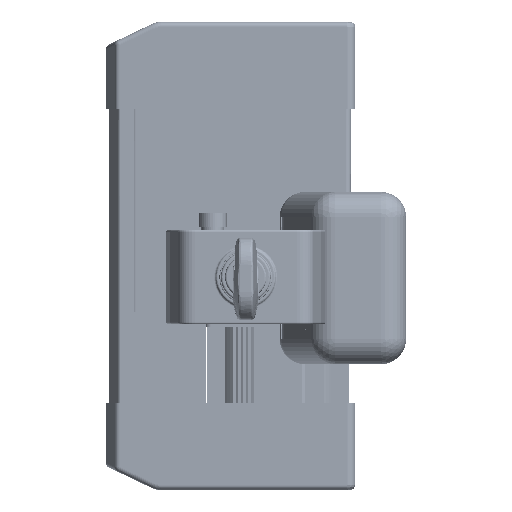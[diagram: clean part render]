
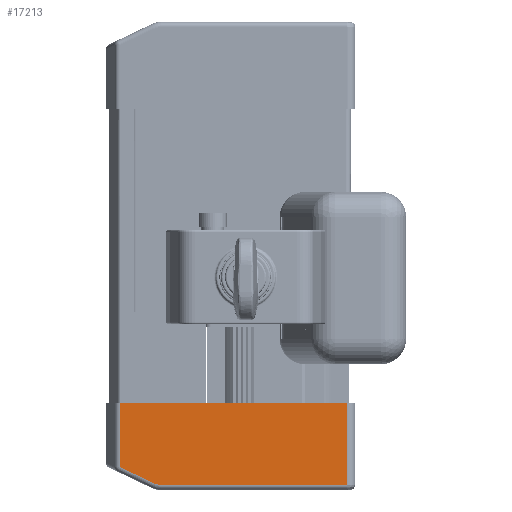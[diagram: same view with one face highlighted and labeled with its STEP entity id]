
A CAD part, front view. The second image highlights one B-rep face of the part: STEP entity #17213.
In plain terms, the highlighted planar face has unit normal (0, -1, 0).
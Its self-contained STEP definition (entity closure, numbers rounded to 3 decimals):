
#1254=LINE('',#85268,#5465);
#1799=LINE('',#86489,#6010);
#1800=LINE('',#86491,#6011);
#1801=LINE('',#86495,#6012);
#1802=LINE('',#86497,#6013);
#5465=VECTOR('',#68134,1.);
#6010=VECTOR('',#69201,1.);
#6011=VECTOR('',#69204,1.);
#6012=VECTOR('',#69207,1.);
#6013=VECTOR('',#69208,1.);
#12591=FACE_OUTER_BOUND('',#23577,.T.);
#15722=PLANE('',#61995);
#17213=ADVANCED_FACE('',(#12591),#15722,.T.);
#23577=EDGE_LOOP('',(#29163,#29164,#29165,#29166,#29167,#29168));
#29163=ORIENTED_EDGE('',*,*,#50423,.F.);
#29164=ORIENTED_EDGE('',*,*,#51034,.F.);
#29165=ORIENTED_EDGE('',*,*,#51035,.F.);
#29166=ORIENTED_EDGE('',*,*,#51036,.F.);
#29167=ORIENTED_EDGE('',*,*,#51037,.F.);
#29168=ORIENTED_EDGE('',*,*,#51038,.F.);
#44962=VERTEX_POINT('',#85267);
#44963=VERTEX_POINT('',#85269);
#45377=VERTEX_POINT('',#86488);
#45378=VERTEX_POINT('',#86492);
#45379=VERTEX_POINT('',#86494);
#45380=VERTEX_POINT('',#86496);
#50423=EDGE_CURVE('',#44962,#44963,#1254,.T.);
#51034=EDGE_CURVE('',#45377,#44962,#1799,.T.);
#51035=EDGE_CURVE('',#45378,#45377,#1800,.T.);
#51036=EDGE_CURVE('',#45379,#45378,#58970,.T.);
#51037=EDGE_CURVE('',#45380,#45379,#1801,.T.);
#51038=EDGE_CURVE('',#44963,#45380,#1802,.T.);
#58970=CIRCLE('',#61994,15.);
#61994=AXIS2_PLACEMENT_3D('',#86493,#69205,#69206);
#61995=AXIS2_PLACEMENT_3D('',#86498,#69209,#69210);
#68134=DIRECTION('',(1.,0.,0.));
#69201=DIRECTION('',(0.,0.,1.));
#69204=DIRECTION('',(-0.902,0.,0.432));
#69205=DIRECTION('',(0.,1.,0.));
#69206=DIRECTION('',(-1.,0.,0.));
#69207=DIRECTION('',(-1.,0.,0.));
#69208=DIRECTION('',(0.,0.,-1.));
#69209=DIRECTION('',(0.,-1.,0.));
#69210=DIRECTION('',(1.,0.,0.));
#85267=CARTESIAN_POINT('',(-152.721,-741.042,158.427));
#85268=CARTESIAN_POINT('',(-115.455,-741.042,158.427));
#85269=CARTESIAN_POINT('',(66.,-741.042,158.427));
#86488=CARTESIAN_POINT('',(-152.721,-741.042,96.379));
#86489=CARTESIAN_POINT('',(-152.721,-741.042,97.427));
#86491=CARTESIAN_POINT('',(-119.5,-741.042,80.476));
#86492=CARTESIAN_POINT('',(-119.754,-741.042,80.598));
#86493=CARTESIAN_POINT('',(-113.277,-741.042,94.127));
#86494=CARTESIAN_POINT('',(-113.277,-741.042,79.127));
#86495=CARTESIAN_POINT('',(-111.777,-741.042,79.127));
#86496=CARTESIAN_POINT('',(66.,-741.042,79.127));
#86497=CARTESIAN_POINT('',(66.,-741.042,129.427));
#86498=CARTESIAN_POINT('',(-115.455,-741.042,88.927));
